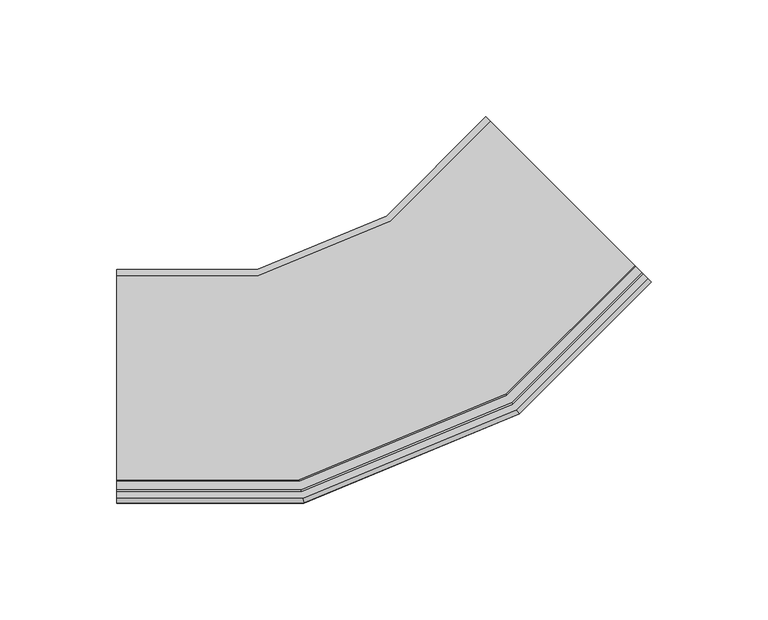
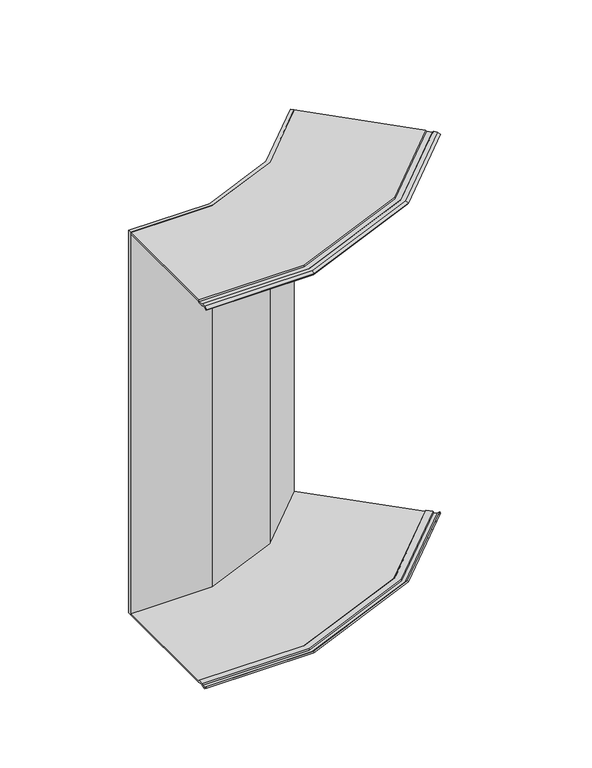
"""IFC4 building model written with IfcOpenShell, lengths in millimetres: cable carrier fitting geometry, CXERC45_Vertical_Outside_Bend-Basortray : Basortray CXERC45-GS."""

import ifcopenshell
import ifcopenshell.guid

model = None  # the IFC model being written
_history = None  # IfcOwnerHistory: only IFC2X3 demands one
_inside = {}  # id of a spatial element -> (the spatial element, [elements in it])
_under = {}  # id of a project, library or spatial element -> (it, [spatial elements below it])
_declared = {}  # id of a project -> (the project, [libraries it declares])
_typed = {}  # id of a type object -> (the type object, [elements of that type])
_made_of = {}  # id of a material, layer set ... -> (it, [elements and type objects made of it])


def new_model(schema):
    """Start an empty IFC model of exactly this schema.

    Asked for "IFC4X3", IfcOpenShell would pick the latest addendum, in which some entities
    have other attributes; the version numbers below select the first issue.
    IFC2X3 requires an IfcOwnerHistory on every rooted entity: one is made here for all.
    """
    global model, _history
    if schema == "IFC4X3":
        model = ifcopenshell.file(schema_version=(4, 3, 0, 0))
    else:
        model = ifcopenshell.file(schema=schema)
    _inside.clear()
    _under.clear()
    _declared.clear()
    _typed.clear()
    _made_of.clear()
    _history = None
    if model.schema == "IFC2X3":
        org = make("IfcOrganization", Name="unknown")
        user = make(
            "IfcPersonAndOrganization",
            ThePerson=make("IfcPerson", FamilyName="unknown"),
            TheOrganization=org,
        )
        app = make(
            "IfcApplication",
            ApplicationDeveloper=org,
            Version="unknown",
            ApplicationFullName="unknown",
            ApplicationIdentifier="unknown",
        )
        _history = make(
            "IfcOwnerHistory",
            OwningUser=user,
            OwningApplication=app,
            ChangeAction="ADDED",
            CreationDate=0,
        )
    return model


def make(cls, **values):
    """One entity of the class cls with the attributes given. An attribute that is None is left unset."""
    return model.create_entity(
        cls, **{name: value for name, value in values.items() if value is not None}
    )


def rooted(cls, **values):
    """An entity with a GlobalId (a new one), such as an element, a storey or a relation."""
    return make(cls, GlobalId=ifcopenshell.guid.new(), OwnerHistory=_history, **values)


def si_unit(unit_type, name, prefix=None):
    """IfcSIUnit, for example si_unit("LENGTHUNIT", "METRE", prefix="MILLI")."""
    return make("IfcSIUnit", UnitType=unit_type, Prefix=prefix, Name=name)


def assignment(units):
    """IfcUnitAssignment: the units of a project."""
    return None if units is None else make("IfcUnitAssignment", Units=units)


def point(xyz):
    """IfcCartesianPoint."""
    return None if xyz is None else make("IfcCartesianPoint", Coordinates=xyz)


def direction(xyz):
    """IfcDirection."""
    return None if xyz is None else make("IfcDirection", DirectionRatios=xyz)


def frame(location, z_axis=None, x_axis=None):
    """IfcAxis2Placement3D, a coordinate frame: its origin and axes. An axis left out is left unset."""
    return make(
        "IfcAxis2Placement3D",
        Location=point(location),
        Axis=direction(z_axis),
        RefDirection=direction(x_axis),
    )


def origin():
    """The frame at (0, 0, 0) with its axes left unset."""
    return frame((0.0, 0.0, 0.0))


def place(relative_to, where):
    """IfcLocalPlacement: puts the frame where relative to a parent placement (None: the world)."""
    return make(
        "IfcLocalPlacement", PlacementRelTo=relative_to, RelativePlacement=where
    )


def context(
    kind, dimensions, precision=None, world=None, true_north=None, identifier=None
):
    """IfcGeometricRepresentationContext, for example the 3D "Model" context."""
    return make(
        "IfcGeometricRepresentationContext",
        ContextIdentifier=identifier,
        ContextType=kind,
        CoordinateSpaceDimension=dimensions,
        Precision=precision,
        WorldCoordinateSystem=world,
        TrueNorth=true_north,
    )


def project(units=None, contexts=None):
    """IfcProject with its units and contexts."""
    return rooted(
        "IfcProject",
        Name="project",
        RepresentationContexts=contexts,
        UnitsInContext=assignment(units),
    )


def spatial(cls, under=None, at=None, **own):
    """A site, building, storey or space (cls), placed at a placement, below another one or the project."""
    s = rooted(cls, ObjectPlacement=at, **own)
    if under is not None:
        _under.setdefault(under.id(), (under, []))[1].append(s)
    return s


def polyline(points):
    """IfcPolyline through the points."""
    return make("IfcPolyline", Points=[point(p) for p in points])


def outline(outer, holes=None, kind="AREA"):
    """IfcArbitraryClosedProfileDef: a profile drawn as a closed curve; with holes, ...WithVoids."""
    if holes is None:
        return make("IfcArbitraryClosedProfileDef", ProfileType=kind, OuterCurve=outer)
    return make(
        "IfcArbitraryProfileDefWithVoids",
        ProfileType=kind,
        OuterCurve=outer,
        InnerCurves=holes,
    )


def extrude(swept, where, along, depth):
    """IfcExtrudedAreaSolid: the profile swept, set in the frame where, extruded along a direction by depth."""
    return make(
        "IfcExtrudedAreaSolid",
        SweptArea=swept,
        Position=where,
        ExtrudedDirection=direction(along),
        Depth=depth,
    )


def faces_of(points, faces, orient=None, outer=None):
    """IfcFace entities. A face is a list of loops; a loop is a list of indices into points, from 0.

    orient and outer hold one flag for each loop. By default every Orientation is true, the
    first loop of a face is its IfcFaceOuterBound and the others are IfcFaceBound.
    """
    made = []
    for i, loops in enumerate(faces):
        bounds = []
        for j, loop in enumerate(loops):
            is_outer = j == 0 if outer is None else outer[i][j]
            bounds.append(
                make(
                    "IfcFaceOuterBound" if is_outer else "IfcFaceBound",
                    Bound=make("IfcPolyLoop", Polygon=[points[k] for k in loop]),
                    Orientation=True if orient is None else orient[i][j],
                )
            )
        made.append(make("IfcFace", Bounds=bounds))
    return made


def faceted_brep(points, faces, orient=None, outer=None, voids=None):
    """IfcFacetedBrep: a solid bounded by flat faces; with voids (closed shells), ...WithVoids."""
    shared = [point(p) for p in points]
    hull = make("IfcClosedShell", CfsFaces=faces_of(shared, faces, orient, outer))
    if voids is None:
        return make("IfcFacetedBrep", Outer=hull)
    return make(
        "IfcFacetedBrepWithVoids",
        Outer=hull,
        Voids=[
            make(cls, CfsFaces=faces_of(shared, fs, o, b)) for cls, fs, o, b in voids
        ],
    )


def shape(context_of_items, identifier, shape_type, items):
    """IfcShapeRepresentation: the items that make up one representation, for example the "Body"."""
    return make(
        "IfcShapeRepresentation",
        ContextOfItems=context_of_items,
        RepresentationIdentifier=identifier,
        RepresentationType=shape_type,
        Items=items,
    )


def source(mapping_origin, context_of_items, identifier, shape_type, items):
    """IfcRepresentationMap: a shape defined once, which mapped items show again and again."""
    return make(
        "IfcRepresentationMap",
        MappingOrigin=mapping_origin,
        MappedRepresentation=shape(context_of_items, identifier, shape_type, items),
    )


def transform(
    local_origin,
    x_axis=None,
    y_axis=None,
    z_axis=None,
    scale=None,
    scale2=None,
    scale3=None,
    uniform=True,
):
    """IfcCartesianTransformationOperator3D, or its non-uniform kind. x_axis, y_axis, z_axis: its Axis1, 2, 3."""
    if uniform:
        return make(
            "IfcCartesianTransformationOperator3D",
            Axis1=direction(x_axis),
            Axis2=direction(y_axis),
            LocalOrigin=point(local_origin),
            Scale=scale,
            Axis3=direction(z_axis),
        )
    return make(
        "IfcCartesianTransformationOperator3DnonUniform",
        Axis1=direction(x_axis),
        Axis2=direction(y_axis),
        LocalOrigin=point(local_origin),
        Scale=scale,
        Axis3=direction(z_axis),
        Scale2=scale2,
        Scale3=scale3,
    )


def mapped(mapping_source, mapping_target):
    """IfcMappedItem: shows the shape of a source again, moved by a transform."""
    return make(
        "IfcMappedItem", MappingSource=mapping_source, MappingTarget=mapping_target
    )


def made_of(thing, what):
    """Note that an element or type object is made of a material, layer set ...; save() writes the relation."""
    if what is not None:
        _made_of.setdefault(what.id(), (what, []))[1].append(thing)
    return thing


def element(
    cls,
    number,
    at=None,
    inside=None,
    cuts=None,
    type_object=None,
    material=None,
    context=None,
    identifier="Body",
    shape_type=None,
    held_by="IfcProductDefinitionShape",
    body=None,
    shapes=None,
    **own,
):
    """One element of the class cls, such as IfcWall. Its Tag is "e" and its number.

    at: its placement. inside: the storey or other place that contains it. cuts: it is an
    opening in that element (IfcRelVoidsElement). A single representation is given by context,
    identifier, shape_type and body (its items); several are given by shapes. held_by: the class
    of the entity that holds the representations. save() writes the other relations.
    """
    e = rooted(cls, Tag="e%d" % number, ObjectPlacement=at, **own)
    if body is not None:
        shapes = [shape(context, identifier, shape_type, body)]
    if shapes is not None:
        e.Representation = make(held_by, Representations=shapes)
    if inside is not None:
        _inside.setdefault(inside.id(), (inside, []))[1].append(e)
    if cuts is not None:
        rooted(
            "IfcRelVoidsElement", RelatingBuildingElement=cuts, RelatedOpeningElement=e
        )
    if type_object is not None:
        _typed.setdefault(type_object.id(), (type_object, []))[1].append(e)
    return made_of(e, material)


def aggregate(whole, parts):
    """IfcRelAggregates: a whole, such as a stair, and the parts it consists of."""
    return rooted("IfcRelAggregates", RelatingObject=whole, RelatedObjects=parts)


def save(model, path):
    """Write the relations noted so far, then the file.

    IfcRelAggregates (storeys below a building ...), IfcRelContainedInSpatialStructure (elements
    in a storey), IfcRelDefinesByType, IfcRelAssociatesMaterial and IfcRelDeclares: one each for
    every whole, place, type object, material and project.
    """
    for whole, parts in _under.values():
        aggregate(whole, parts)
    for where, things in _inside.values():
        rooted(
            "IfcRelContainedInSpatialStructure",
            RelatedElements=things,
            RelatingStructure=where,
        )
    for kind, things in _typed.values():
        rooted("IfcRelDefinesByType", RelatedObjects=things, RelatingType=kind)
    for what, things in _made_of.values():
        rooted("IfcRelAssociatesMaterial", RelatedObjects=things, RelatingMaterial=what)
    for by, libraries in _declared.values():
        rooted("IfcRelDeclares", RelatingContext=by, RelatedDefinitions=libraries)
    model.write(path)


def cable_carrier_fitting_4fe643f0(model_context):
    return source(origin(), model_context, "Body", "SolidModel", [
        extrude(outline(polyline([(0.0, -2.54), (0.0, 0.0), (60.0, 0.0), (115.432772, 22.9610059), (157.8591788, 65.3874128), (159.65523, 63.5913616), (116.8715664, 20.8076979), (60.5052374, -2.54), (0.0, -2.54)])), frame((0.0, 0.0, -150.0), z_axis=(0.0, 0.0, 1.0), x_axis=(1.0, 0.0, 0.0)), (0.0, 0.0, 1.0), 300.0),
        faceted_brep([(0.0, -90.0, -150.0), (0.0, -90.7736939, -149.2263061), (0.0, -94.3411156, -149.2263061), (0.0, -95.1148095, -150.0), (0.0, -97.9152451, -150.0), (0.0, -100.0, -148.5402389), (0.0, -99.4264236, -147.7210869), (0.0, -97.5999463, -149.0), (0.0, -95.5290231, -149.0), (0.0, -94.7553291, -148.2263061), (0.0, -90.3594804, -148.2263061), (0.0, -89.5857864, -149.0), (0.0, 0.0, -149.0), (0.0, 0.0, -150.0), (221.4987891, 1.7478025, -150.0), (157.8591788, 65.3874128, -150.0), (157.8591788, 65.3874128, -149.0), (221.2058959, 2.0406957, -149.0), (221.7529801, 1.4936115, -148.2263061), (224.8613146, -1.614723, -148.2263061), (225.4083988, -2.1618072, -149.0), (226.8727627, -3.6261711, -149.0), (228.1642772, -4.9176855, -147.7210869), (228.5698569, -5.3232653, -148.5402389), (227.0957126, -3.849121, -150.0), (225.1155056, -1.868914, -150.0), (224.5684214, -1.3218298, -149.2263061), (222.0458734, 1.2007183, -149.2263061), (77.9021131, -90.0, -150.0), (78.0560104, -90.7736939, -149.2263061), (166.8519391, -53.993216, -149.2263061), (168.8727212, -57.01753, -149.2263061), (78.7656146, -94.3411156, -149.2263061), (78.9195119, -95.1148095, -150.0), (169.3109836, -57.673436, -150.0), (170.8973029, -60.0475307, -150.0), (79.4765532, -97.9152451, -150.0), (79.8912367, -100.0, -148.5402389), (79.7771453, -99.4264236, -147.7210869), (79.4138364, -97.5999463, -149.0), (170.7187005, -59.7802333, -149.0), (169.5456167, -58.0245893, -149.0), (79.0019041, -95.5290231, -149.0), (78.8480068, -94.7553291, -148.2263061), (169.1073543, -57.3686833, -148.2263061), (166.617306, -53.6420627, -148.2263061), (77.9736182, -90.3594804, -148.2263061), (77.8197209, -89.5857864, -149.0), (166.1790436, -52.9861566, -149.0), (115.432772, 22.9610059, -149.0), (60.0, 0.0, -149.0), (60.0, 0.0, -150.0), (115.432772, 22.9610059, -150.0), (166.4136767, -53.3373099, -150.0), (172.0782217, -61.8149006, -148.5402389), (171.7533167, -61.3286459, -147.7210869)], [[[0, 1, 2, 3, 4, 5, 6, 7, 8, 9, 10, 11, 12, 13]], [[14, 15, 16, 17, 18, 19, 20, 21, 22, 23, 24, 25, 26, 27]], [[1, 0, 28, 29]], [[2, 1, 29, 30, 27, 26, 31, 32]], [[3, 2, 32, 33]], [[4, 3, 33, 34, 25, 24, 35, 36]], [[5, 4, 36, 37]], [[6, 5, 37, 38]], [[7, 6, 38, 39]], [[8, 7, 39, 40, 21, 20, 41, 42]], [[9, 8, 42, 43]], [[10, 9, 43, 44, 19, 18, 45, 46]], [[11, 10, 46, 47]], [[12, 11, 47, 48, 17, 16, 49, 50]], [[13, 12, 50, 51]], [[0, 13, 51, 52, 15, 14, 53, 28]], [[29, 28, 53, 30]], [[33, 32, 31, 34]], [[37, 36, 35, 54]], [[38, 37, 54, 55]], [[39, 38, 55, 40]], [[43, 42, 41, 44]], [[47, 46, 45, 48]], [[51, 50, 49, 52]], [[30, 53, 14, 27]], [[34, 31, 26, 25]], [[54, 35, 24, 23]], [[55, 54, 23, 22]], [[40, 55, 22, 21]], [[44, 41, 20, 19]], [[48, 45, 18, 17]], [[52, 49, 16, 15]]]),
        faceted_brep([(0.0, -90.0, 150.0), (0.0, 0.0, 150.0), (0.0, 0.0, 149.0), (0.0, -89.5857864, 149.0), (0.0, -90.3594804, 148.2263061), (0.0, -94.7553291, 148.2263061), (0.0, -95.5290231, 149.0), (0.0, -97.5999463, 149.0), (0.0, -99.4264236, 147.7210869), (0.0, -100.0, 148.5402389), (0.0, -97.9152451, 150.0), (0.0, -95.1148095, 150.0), (0.0, -94.3411156, 149.2263061), (0.0, -90.7736939, 149.2263061), (221.4987891, 1.7478025, 150.0), (222.0458734, 1.2007183, 149.2263061), (224.5684214, -1.3218298, 149.2263061), (225.1155056, -1.868914, 150.0), (227.0957126, -3.849121, 150.0), (228.5698569, -5.3232653, 148.5402389), (228.1642772, -4.9176855, 147.7210869), (226.8727627, -3.6261711, 149.0), (225.4083988, -2.1618072, 149.0), (224.8613146, -1.614723, 148.2263061), (221.7529801, 1.4936115, 148.2263061), (221.2058959, 2.0406957, 149.0), (157.8591788, 65.3874128, 149.0), (157.8591788, 65.3874128, 150.0), (77.9021131, -90.0, 150.0), (166.4136767, -53.3373099, 150.0), (115.432772, 22.9610059, 150.0), (60.0, 0.0, 150.0), (60.0, 0.0, 149.0), (115.432772, 22.9610059, 149.0), (166.1790436, -52.9861566, 149.0), (77.8197209, -89.5857864, 149.0), (77.9736182, -90.3594804, 148.2263061), (166.617306, -53.6420627, 148.2263061), (169.1073543, -57.3686833, 148.2263061), (78.8480068, -94.7553291, 148.2263061), (79.0019041, -95.5290231, 149.0), (169.5456167, -58.0245893, 149.0), (170.7187005, -59.7802333, 149.0), (79.4138364, -97.5999463, 149.0), (79.7771453, -99.4264236, 147.7210869), (79.8912367, -100.0, 148.5402389), (79.4765532, -97.9152451, 150.0), (170.8973029, -60.0475307, 150.0), (169.3109836, -57.673436, 150.0), (78.9195119, -95.1148095, 150.0), (78.7656146, -94.3411156, 149.2263061), (168.8727212, -57.01753, 149.2263061), (166.8519391, -53.993216, 149.2263061), (78.0560104, -90.7736939, 149.2263061), (171.7533167, -61.3286459, 147.7210869), (172.0782217, -61.8149006, 148.5402389)], [[[0, 1, 2, 3, 4, 5, 6, 7, 8, 9, 10, 11, 12, 13]], [[14, 15, 16, 17, 18, 19, 20, 21, 22, 23, 24, 25, 26, 27]], [[1, 0, 28, 29, 14, 27, 30, 31]], [[2, 1, 31, 32]], [[3, 2, 32, 33, 26, 25, 34, 35]], [[4, 3, 35, 36]], [[5, 4, 36, 37, 24, 23, 38, 39]], [[6, 5, 39, 40]], [[7, 6, 40, 41, 22, 21, 42, 43]], [[8, 7, 43, 44]], [[9, 8, 44, 45]], [[10, 9, 45, 46]], [[11, 10, 46, 47, 18, 17, 48, 49]], [[12, 11, 49, 50]], [[13, 12, 50, 51, 16, 15, 52, 53]], [[0, 13, 53, 28]], [[32, 31, 30, 33]], [[36, 35, 34, 37]], [[40, 39, 38, 41]], [[44, 43, 42, 54]], [[45, 44, 54, 55]], [[46, 45, 55, 47]], [[50, 49, 48, 51]], [[28, 53, 52, 29]], [[33, 30, 27, 26]], [[37, 34, 25, 24]], [[41, 38, 23, 22]], [[54, 42, 21, 20]], [[55, 54, 20, 19]], [[47, 55, 19, 18]], [[51, 48, 17, 16]], [[29, 52, 15, 14]]]),
    ])


if __name__ == "__main__":
    model = new_model("IFC4")
    model_context = context("Model", 3, world=origin())
    ifc_project = project(units=[si_unit("LENGTHUNIT", "METRE", prefix="MILLI")], contexts=[model_context])
    site = spatial("IfcSite", under=ifc_project)
    building = spatial("IfcBuilding", under=site)
    placement = place(None, origin())
    cable_carrier_fitting_shape = cable_carrier_fitting_4fe643f0(model_context)
    element("IfcCableCarrierFitting", 1, ObjectType="CXERC45_Vertical_Outside_Bend-Basortray : Basortray CXERC45-GS", at=placement, inside=building, context=model_context, shape_type="MappedRepresentation", body=[
        mapped(cable_carrier_fitting_shape, transform((0.0, 0.0, 0.0), x_axis=(1.0, 0.0, 0.0), y_axis=(0.0, 1.0, 0.0), z_axis=(0.0, 0.0, 1.0))),
    ])
    save(model, "model.ifc")
